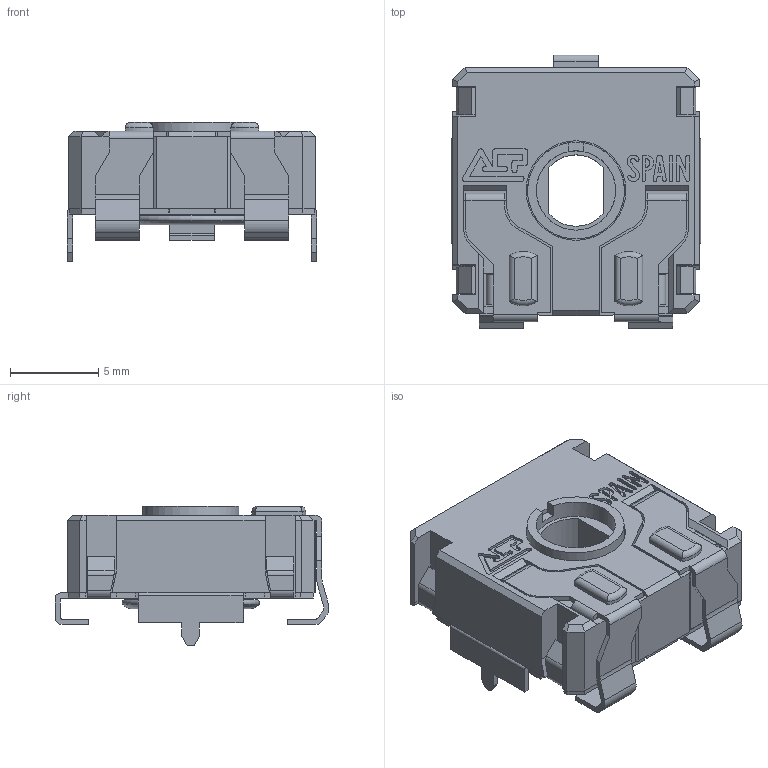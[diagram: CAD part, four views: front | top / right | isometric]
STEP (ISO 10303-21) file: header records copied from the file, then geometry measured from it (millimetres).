
FILE_DESCRIPTION(/* description */ (''),/* implementation_level */ '2;1');
FILE_NAME(/* name */ 'C:\Users\CEM\Desktop\ENVIAR\TRANSICION 3D CATALOGOS\CS14ZVSMD CY.stp',/* time_stamp */ '2025-10-24T17:52:40+02:00',/* author */ ('CEM'),/* organization */ (''),/* preprocessor_version */ 'ST-DEVELOPER v17',/* originating_system */ 'Autodesk Inventor 2018',/* authorisation */ '');
FILE_SCHEMA (('AUTOMOTIVE_DESIGN { 1 0 10303 214 3 1 1 }'));
Length unit declared in the file: millimetre
Products named in the file (1): CS14ZVSMD CY
Bounding box: 14.15 x 15.55 x 7.9 mm (x, y, z)
Volume: 558.4 mm3; surface area: 1650.6 mm2
Topology: 1 solids, 3 shells, 740 faces, 2082 edges, 1345 vertices
Faces by surface type: plane 556, cylinder 150, cone 15, bspline 10, torus 9
Full cylindrical faces by diameter (mm): 4.5 x1, 5.5 x1, 5.65 x1, 6.87 x1
Entity records: 24740 total; most frequent: CARTESIAN_POINT 4595, ORIENTED_EDGE 4164, DIRECTION 3884, EDGE_CURVE 2082, LINE 1632, VECTOR 1632, VERTEX_POINT 1345, AXIS2_PLACEMENT_3D 1126
